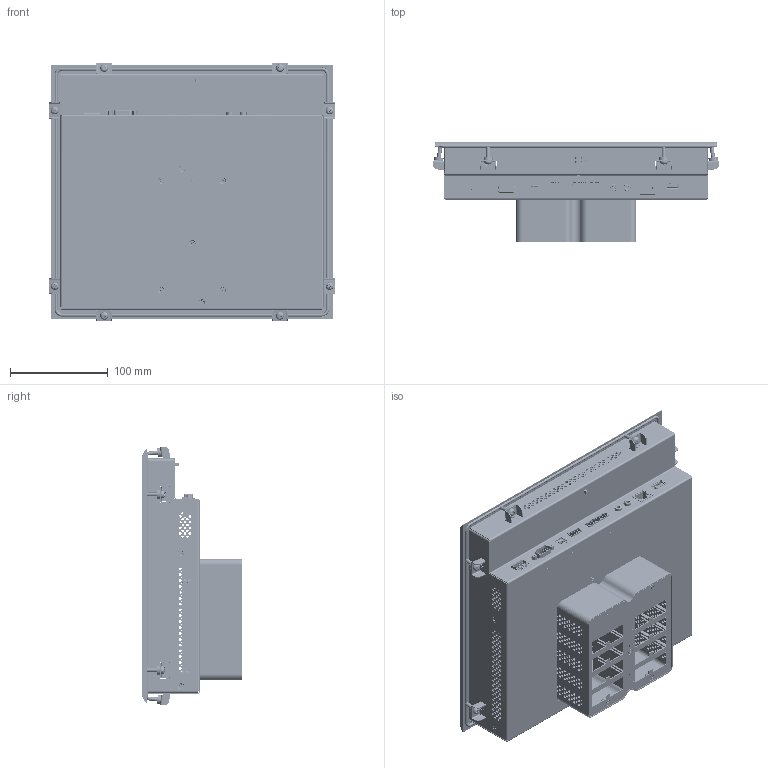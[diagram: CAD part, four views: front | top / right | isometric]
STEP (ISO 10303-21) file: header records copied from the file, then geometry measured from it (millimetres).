
FILE_DESCRIPTION (( 'STEP AP214' ), '1' );
FILE_NAME ('Á12-00.00-01_ÏËÊ12,1 (ðåâ.4).STEP', '2025-05-24T22:08:01', ( '' ), ( '' ), 'SwSTEP 2.0', 'SolidWorks 2021', '' );
FILE_SCHEMA (( 'AUTOMOTIVE_DESIGN' ));
Length unit declared in the file: millimetre
Products named in the file (1): Á12-00.00-01_ÏËÊ12,1 (ðåâ.4)
Bounding box: 292.95 x 102.9 x 265.15 mm (x, y, z)
Surface area: 497395.7 mm2 (no closed solid volume)
Topology: 0 solids, 222 shells, 3080 faces, 16222 edges, 13100 vertices
Faces by surface type: cylinder 1560, plane 1313, cone 90, bspline 65, torus 52
Entity records: 203424 total; most frequent: CARTESIAN_POINT 46092, DIRECTION 24007, ORIENTED_EDGE 22500, EDGE_CURVE 16216, VERTEX_POINT 13100, LINE 8555, VECTOR 8555, AXIS2_PLACEMENT_3D 7726
